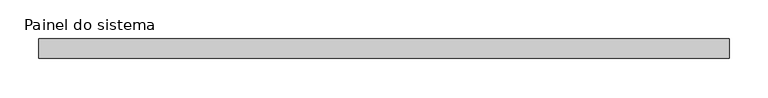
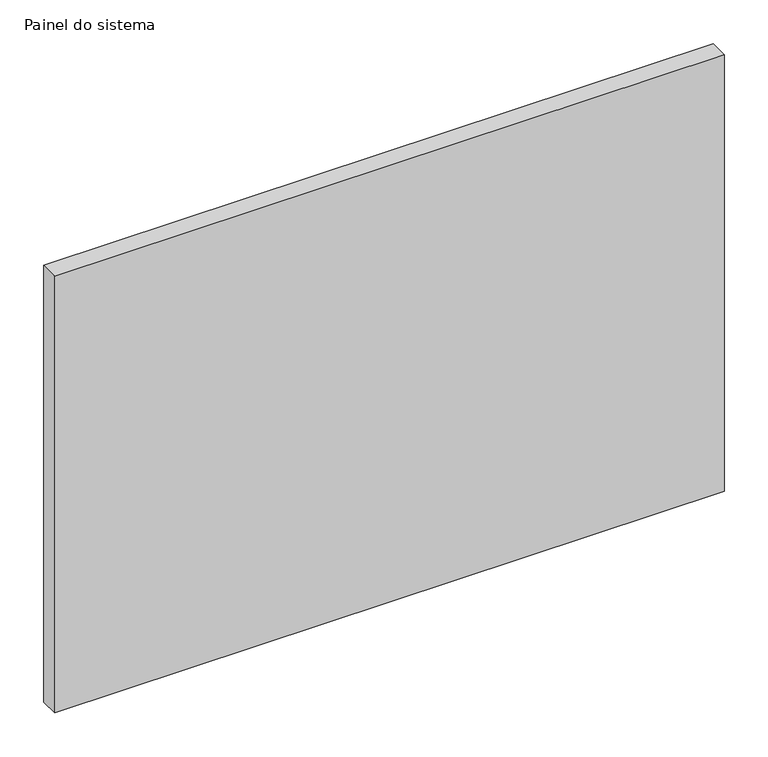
"""IFC4 building model written with IfcOpenShell, lengths in millimetres: plate geometry, Painel do sistema : Envidraçado."""

from ifc_helpers import new_model, si_unit, origin, origin_with_axes, place, context, project, spatial, polyline, outline, extrude, source, transform, mapped, element, save


def painel_do_sistema_8d512da9(model_context):
    return source(origin(), model_context, "Body", "SweptSolid", [
        extrude(outline(polyline([(442.5, 24.5), (-442.5, 24.5), (-442.5, 49.5), (442.5, 49.5), (442.5, 24.5)])), origin_with_axes(), (0.0, 0.0, 1.0), 610.0),
    ])


if __name__ == "__main__":
    model = new_model("IFC4")
    model_context = context("Model", 3, world=origin())
    ifc_project = project(units=[si_unit("LENGTHUNIT", "METRE", prefix="MILLI")], contexts=[model_context])
    site = spatial("IfcSite", under=ifc_project)
    building = spatial("IfcBuilding", under=site)
    placement = place(None, origin())
    painel_do_sistema_shape = painel_do_sistema_8d512da9(model_context)
    element("IfcPlate", 1, ObjectType="Painel do sistema : Envidraçado", at=placement, inside=building, context=model_context, shape_type="MappedRepresentation", body=[
        mapped(painel_do_sistema_shape, transform((0.0, 0.0, 0.0), x_axis=(1.0, 0.0, 0.0), y_axis=(0.0, 1.0, 0.0), z_axis=(0.0, 0.0, 1.0))),
    ])
    save(model, "model.ifc")
